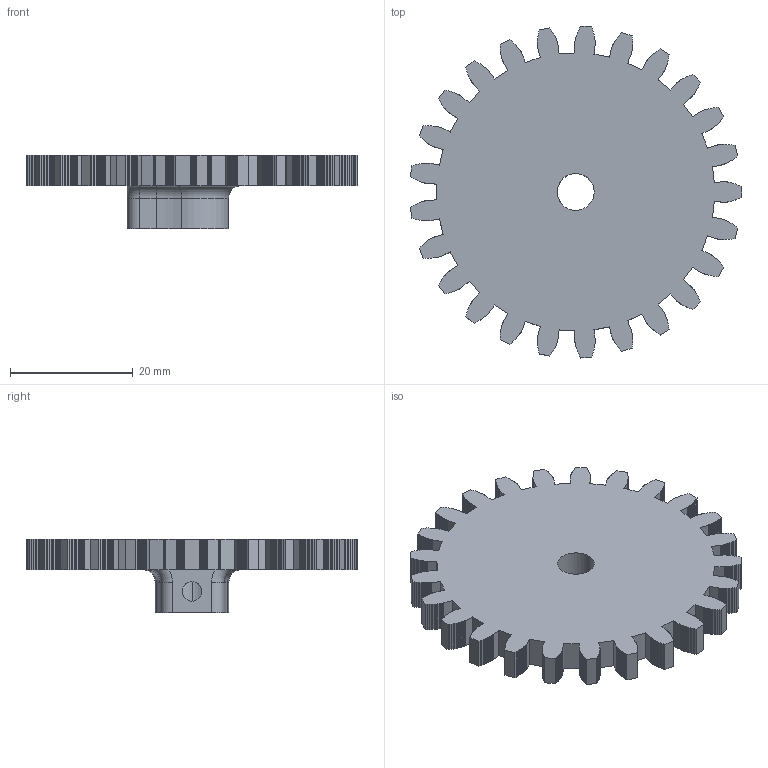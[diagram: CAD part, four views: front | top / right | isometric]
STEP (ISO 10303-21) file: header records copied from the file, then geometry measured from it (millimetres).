
FILE_DESCRIPTION (( 'STEP AP203' ), '1' );
FILE_NAME ('drive_gear.STEP', '2019-07-18T16:15:38', ( '' ), ( '' ), 'SwSTEP 2.0', 'SolidWorks 2017', '' );
FILE_SCHEMA (( 'CONFIG_CONTROL_DESIGN' ));
Length unit declared in the file: millimetre
Products named in the file (1): drive_gear
Bounding box: 53.87 x 53.98 x 12 mm (x, y, z)
Volume: 10326.9 mm3; surface area: 6149.4 mm2
Topology: 1 solids, 1 shells, 1080 faces, 3223 edges, 2146 vertices
Faces by surface type: plane 1061, cylinder 14, torus 5
Entity records: 35685 total; most frequent: CARTESIAN_POINT 6518, ORIENTED_EDGE 6446, DIRECTION 5414, EDGE_CURVE 3223, VECTOR 3186, LINE 3186, VERTEX_POINT 2146, AXIS2_PLACEMENT_3D 1114
